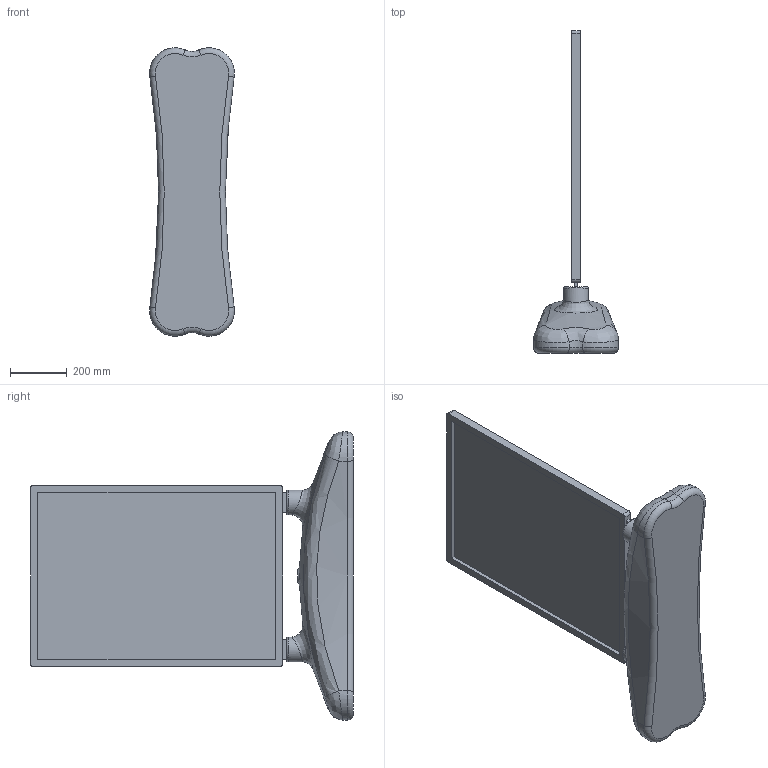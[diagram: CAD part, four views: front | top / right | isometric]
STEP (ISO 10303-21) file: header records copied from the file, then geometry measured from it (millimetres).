
FILE_DESCRIPTION(/* description */ (''),/* implementation_level */ '2;1');
FILE_NAME(/* name */ 'N:\0_Question Bank\Assignment\Inventor\Environment\Waterbase Sign\Waterbase Sign.stp',/* time_stamp */ '2023-12-05T15:07:48+00:00',/* author */ ('aphee'),/* organization */ (''),/* preprocessor_version */ 'ST-DEVELOPER v18.1',/* originating_system */ 'Autodesk Inventor 2022',/* authorisation */ '');
FILE_SCHEMA (('AUTOMOTIVE_DESIGN { 1 0 10303 214 3 1 1 }'));
Length unit declared in the file: millimetre
Products named in the file (4): Waterbase Sign; Part4_Base; Part4_Frame; Part4_Sign
Assembly tree (3 placements, depth 2):
  Waterbase Sign
    Part4_Base
    Part4_Frame
    Part4_Sign
Bounding box: 299.98 x 1141.25 x 1019.88 mm (x, y, z)
Volume: 42670562.9 mm3; surface area: 2168388.6 mm2
Topology: 3 solids, 3 shells, 68 faces, 156 edges, 99 vertices
Faces by surface type: plane 30, cylinder 16, torus 11, bspline 11
Full cylindrical faces by diameter (mm): 88.015 x2
Entity records: 3310 total; most frequent: CARTESIAN_POINT 1666, ORIENTED_EDGE 312, DIRECTION 310, EDGE_CURVE 156, AXIS2_PLACEMENT_3D 118, VERTEX_POINT 99, EDGE_LOOP 75, LINE 74
